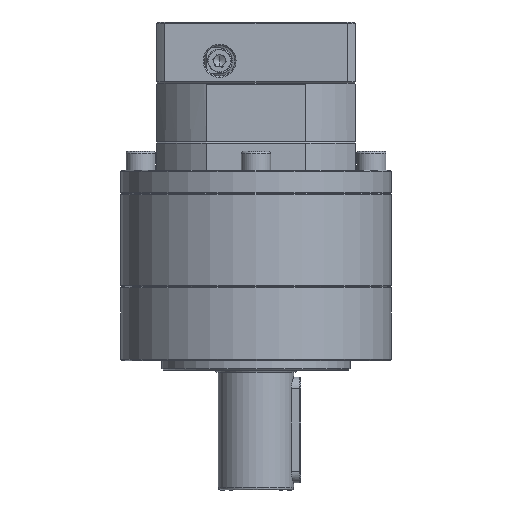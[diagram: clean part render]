
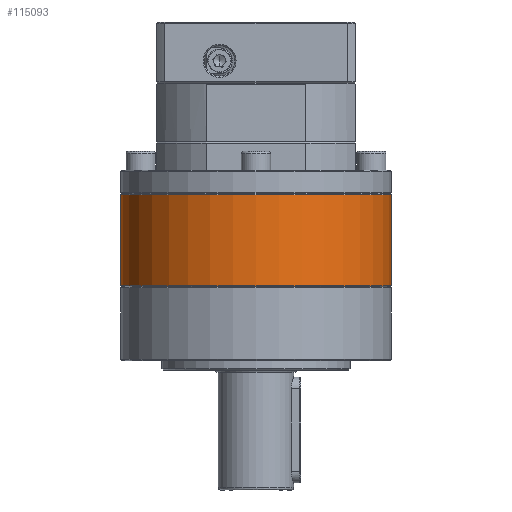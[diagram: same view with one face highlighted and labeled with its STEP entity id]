
A CAD part, front view. The second image highlights one B-rep face of the part: STEP entity #115093.
In plain terms, the highlighted cylindrical face has radius 57.5 mm (diameter 115 mm), a partial arc.
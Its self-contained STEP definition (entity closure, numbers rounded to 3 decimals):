
#652 = EDGE_CURVE ( 'NONE', #20065, #87648, #124084, .T. ) ;
#11326 = CARTESIAN_POINT ( 'NONE',  ( 117.505, 85.383, -99.228 ) ) ;
#13726 = CARTESIAN_POINT ( 'NONE',  ( 60.005, 85.383, -60.516 ) ) ;
#15070 = EDGE_CURVE ( 'NONE', #46948, #87648, #109588, .T. ) ;
#17056 = DIRECTION ( 'NONE',  ( 0., 0., 1. ) ) ;
#18872 = AXIS2_PLACEMENT_3D ( 'NONE', #13726, #91124, #102262 ) ;
#20065 = VERTEX_POINT ( 'NONE', #69555 ) ;
#26077 = AXIS2_PLACEMENT_3D ( 'NONE', #131204, #129790, #63537 ) ;
#26472 = LINE ( 'NONE', #108560, #112998 ) ;
#33049 = DIRECTION ( 'NONE',  ( 0., 0., -1. ) ) ;
#35089 = CARTESIAN_POINT ( 'NONE',  ( 2.505, 85.383, -60.516 ) ) ;
#39163 = ORIENTED_EDGE ( 'NONE', *, *, #131119, .T. ) ;
#43713 = AXIS2_PLACEMENT_3D ( 'NONE', #127760, #17056, #115164 ) ;
#46948 = VERTEX_POINT ( 'NONE', #66509 ) ;
#52921 = DIRECTION ( 'NONE',  ( 0., 0., -1. ) ) ;
#53842 = ORIENTED_EDGE ( 'NONE', *, *, #652, .F. ) ;
#56846 = VERTEX_POINT ( 'NONE', #35089 ) ;
#62052 = ORIENTED_EDGE ( 'NONE', *, *, #116727, .T. ) ;
#63537 = DIRECTION ( 'NONE',  ( -1., 0., 0. ) ) ;
#66509 = CARTESIAN_POINT ( 'NONE',  ( 2.505, 85.383, -99.228 ) ) ;
#68685 = VECTOR ( 'NONE', #33049, 1000. ) ;
#69555 = CARTESIAN_POINT ( 'NONE',  ( 117.505, 85.383, -60.516 ) ) ;
#87648 = VERTEX_POINT ( 'NONE', #11326 ) ;
#91124 = DIRECTION ( 'NONE',  ( 0., 0., -1. ) ) ;
#98188 = CYLINDRICAL_SURFACE ( 'NONE', #26077, 57.5 ) ;
#99309 = CARTESIAN_POINT ( 'NONE',  ( 117.505, 85.383, -60.016 ) ) ;
#102203 = EDGE_LOOP ( 'NONE', ( #53842, #62052, #39163, #126246 ) ) ;
#102262 = DIRECTION ( 'NONE',  ( -1., 0., 0. ) ) ;
#108560 = CARTESIAN_POINT ( 'NONE',  ( 2.505, 85.383, -60.016 ) ) ;
#109588 = CIRCLE ( 'NONE', #43713, 57.5 ) ;
#112998 = VECTOR ( 'NONE', #52921, 1000. ) ;
#113713 = FACE_OUTER_BOUND ( 'NONE', #102203, .T. ) ;
#115093 = ADVANCED_FACE ( 'NONE', ( #113713 ), #98188, .T. ) ;
#115164 = DIRECTION ( 'NONE',  ( -1., 0., 0. ) ) ;
#116535 = CIRCLE ( 'NONE', #18872, 57.5 ) ;
#116727 = EDGE_CURVE ( 'NONE', #20065, #56846, #116535, .T. ) ;
#124084 = LINE ( 'NONE', #99309, #68685 ) ;
#126246 = ORIENTED_EDGE ( 'NONE', *, *, #15070, .T. ) ;
#127760 = CARTESIAN_POINT ( 'NONE',  ( 60.005, 85.383, -99.228 ) ) ;
#129790 = DIRECTION ( 'NONE',  ( 0., 0., -1. ) ) ;
#131119 = EDGE_CURVE ( 'NONE', #56846, #46948, #26472, .T. ) ;
#131204 = CARTESIAN_POINT ( 'NONE',  ( 60.005, 85.383, -60.016 ) ) ;
